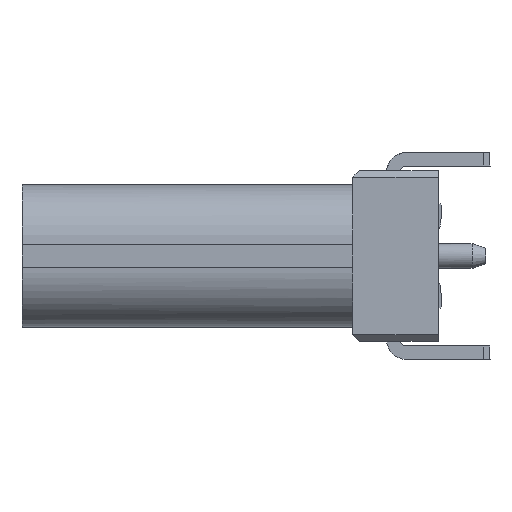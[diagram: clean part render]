
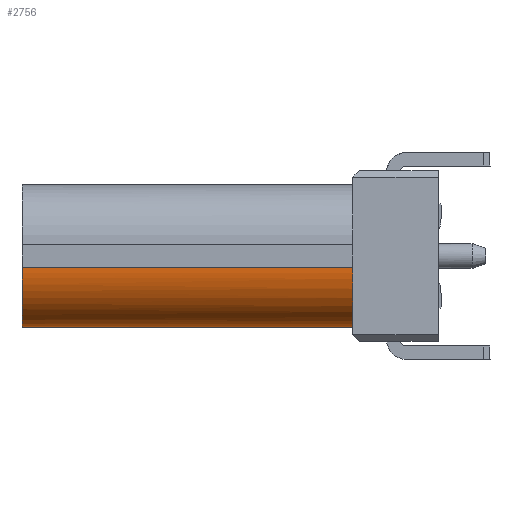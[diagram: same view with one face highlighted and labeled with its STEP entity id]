
A CAD part, left-side view. The second image highlights one B-rep face of the part: STEP entity #2756.
In plain terms, the highlighted cylindrical face has radius 1.33 mm (diameter 2.66 mm), a partial arc.
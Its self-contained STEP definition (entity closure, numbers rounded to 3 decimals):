
#2756=ADVANCED_FACE('NONE',(#5970),#5971,.T.);
#5970=FACE_OUTER_BOUND('',#10191,.T.);
#5971=CYLINDRICAL_SURFACE('',#10192,1.33);
#10191=EDGE_LOOP('',(#19007,#19008,#19009,#19010,#19011,#19012));
#10192=AXIS2_PLACEMENT_3D('',#19013,#19014,#19015);
#19007=ORIENTED_EDGE('',*,*,#25499,.T.);
#19008=ORIENTED_EDGE('',*,*,#25501,.T.);
#19009=ORIENTED_EDGE('',*,*,#25542,.T.);
#19010=ORIENTED_EDGE('',*,*,#25539,.T.);
#19011=ORIENTED_EDGE('',*,*,#25600,.F.);
#19012=ORIENTED_EDGE('',*,*,#22665,.T.);
#19013=CARTESIAN_POINT('',(-5.486,-2.298,10.152));
#19014=DIRECTION('',(0.0,-1.0,0.0));
#19015=DIRECTION('',(0.0,0.0,1.0));
#22665=EDGE_CURVE('NONE',#27194,#27192,#27195,.T.);
#25499=EDGE_CURVE('NONE',#27192,#31013,#31433,.T.);
#25501=EDGE_CURVE('NONE',#31013,#30425,#31435,.T.);
#25539=EDGE_CURVE('NONE',#31471,#31475,#31477,.T.);
#25542=EDGE_CURVE('NONE',#30425,#31471,#31480,.T.);
#25600=EDGE_CURVE('NONE',#27194,#31475,#31556,.T.);
#27192=VERTEX_POINT('NONE',#34026);
#27194=VERTEX_POINT('NONE',#34029);
#27195=LINE('',#34030,#34031);
#30425=VERTEX_POINT('NONE',#40000);
#31013=VERTEX_POINT('NONE',#41140);
#31433=B_SPLINE_CURVE_WITH_KNOTS('',3,(#42274,#42275,#42276,#42277),.UNSPECIFIED.,.F.,.F.,(4,4),(0.0,1.0),.UNSPECIFIED.);
#31435=B_SPLINE_CURVE_WITH_KNOTS('',3,(#42279,#42280,#42281,#42282,#42283,#42284),.UNSPECIFIED.,.F.,.F.,(4,2,4),(0.0,0.5,1.0),.UNSPECIFIED.);
#31471=VERTEX_POINT('NONE',#42376);
#31475=VERTEX_POINT('NONE',#42382);
#31477=LINE('',#42385,#42386);
#31480=B_SPLINE_CURVE_WITH_KNOTS('',3,(#42392,#42393,#42394,#42395),.UNSPECIFIED.,.F.,.F.,(4,4),(0.0,1.0),.UNSPECIFIED.);
#31556=B_SPLINE_CURVE_WITH_KNOTS('',3,(#42618,#42619,#42620,#42621,#42622,#42623,#42624,#42625,#42626,#42627,#42628,#42629,#42630,#42631,#42632,#42633,#42634,#42635),.UNSPECIFIED.,.F.,.F.,(4,1,1,2,2,2,1,1,2,2,4),(0.0,0.125,0.187,0.219,0.25,0.5,0.625,0.687,0.719,0.75,1.0),.UNSPECIFIED.);
#34026=CARTESIAN_POINT('',(-5.486,-2.151,8.822));
#34029=CARTESIAN_POINT('',(-5.486,5.199,8.822));
#34030=CARTESIAN_POINT('',(-5.486,-2.298,8.822));
#34031=VECTOR('',#45436,1000.0);
#40000=CARTESIAN_POINT('',(-6.496,-2.151,9.286));
#41140=CARTESIAN_POINT('',(-5.551,-2.151,8.823));
#42274=CARTESIAN_POINT('',(-5.486,-2.151,8.822));
#42275=CARTESIAN_POINT('',(-5.508,-2.151,8.822));
#42276=CARTESIAN_POINT('',(-5.53,-2.151,8.822));
#42277=CARTESIAN_POINT('',(-5.551,-2.151,8.823));
#42279=CARTESIAN_POINT('',(-5.551,-2.151,8.823));
#42280=CARTESIAN_POINT('',(-5.731,-2.151,8.832));
#42281=CARTESIAN_POINT('',(-5.909,-2.151,8.878));
#42282=CARTESIAN_POINT('',(-6.233,-2.151,9.037));
#42283=CARTESIAN_POINT('',(-6.379,-2.151,9.149));
#42284=CARTESIAN_POINT('',(-6.496,-2.151,9.286));
#42376=CARTESIAN_POINT('',(-6.816,-2.151,10.152));
#42382=CARTESIAN_POINT('',(-6.816,5.199,10.152));
#42385=CARTESIAN_POINT('',(-6.816,-2.298,10.152));
#42386=VECTOR('',#47075,1000.0);
#42392=CARTESIAN_POINT('',(-6.496,-2.151,9.286));
#42393=CARTESIAN_POINT('',(-6.701,-2.151,9.525));
#42394=CARTESIAN_POINT('',(-6.816,-2.151,9.838));
#42395=CARTESIAN_POINT('',(-6.816,-2.151,10.152));
#42618=CARTESIAN_POINT('',(-5.486,5.199,8.822));
#42619=CARTESIAN_POINT('',(-5.571,5.199,8.822));
#42620=CARTESIAN_POINT('',(-5.695,5.199,8.833));
#42621=CARTESIAN_POINT('',(-5.837,5.199,8.867));
#42622=CARTESIAN_POINT('',(-5.897,5.199,8.886));
#42623=CARTESIAN_POINT('',(-5.936,5.199,8.9));
#42624=CARTESIAN_POINT('',(-5.954,5.199,8.907));
#42625=CARTESIAN_POINT('',(-6.146,5.199,8.983));
#42626=CARTESIAN_POINT('',(-6.297,5.199,9.082));
#42627=CARTESIAN_POINT('',(-6.491,5.199,9.276));
#42628=CARTESIAN_POINT('',(-6.577,5.199,9.381));
#42629=CARTESIAN_POINT('',(-6.657,5.199,9.517));
#42630=CARTESIAN_POINT('',(-6.686,5.199,9.578));
#42631=CARTESIAN_POINT('',(-6.705,5.199,9.62));
#42632=CARTESIAN_POINT('',(-6.715,5.199,9.643));
#42633=CARTESIAN_POINT('',(-6.785,5.199,9.819));
#42634=CARTESIAN_POINT('',(-6.816,5.199,9.982));
#42635=CARTESIAN_POINT('',(-6.816,5.199,10.152));
#45436=DIRECTION('',(-0.0,-1.0,-0.0));
#47075=DIRECTION('',(0.0,1.0,0.0));
